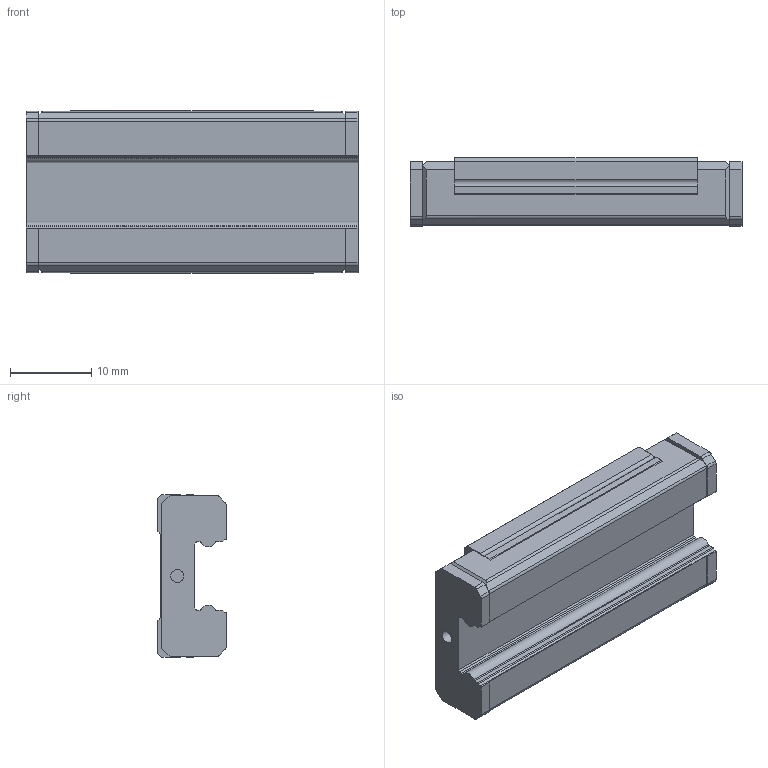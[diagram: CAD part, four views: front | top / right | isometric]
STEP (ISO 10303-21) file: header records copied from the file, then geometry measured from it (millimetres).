
FILE_DESCRIPTION(/* description */ ('STEP AP214'),/* implementation_level */ '2;1');
FILE_NAME(/* name */ 'SRS9XNUU(GK) BLOCK(1)',/* time_stamp */ '2023-06-01T09:51:36+02:00',/* author */ ('License CC BY-ND 4.0'),/* organization */ ('CADENAS'),/* preprocessor_version */ 'ST-DEVELOPER v19.3',/* originating_system */ 'PARTsolutions',/* authorisation */ ' ');
FILE_SCHEMA (('AUTOMOTIVE_DESIGN {1 0 10303 214 3 1 1}'));
Length unit declared in the file: millimetre
Products named in the file (2): SRS9XNUU(GK) BLOCK(1); SRS9XNUU1S
Assembly tree (1 placements, depth 2):
  SRS9XNUU(GK) BLOCK(1)
    SRS9XNUU1S
Bounding box: 40.8 x 8.4 x 20 mm (x, y, z)
Volume: 5134.2 mm3; surface area: 2985.1 mm2
Topology: 1 solids, 1 shells, 120 faces, 324 edges, 208 vertices
Faces by surface type: plane 78, cylinder 34, cone 8
Full cylindrical faces by diameter (mm): 1.6 x2, 2.459 x4
Entity records: 3663 total; most frequent: DIRECTION 630, CARTESIAN_POINT 628, ORIENTED_EDGE 604, EDGE_CURVE 302, LINE 218, VECTOR 218, AXIS2_PLACEMENT_3D 206, VERTEX_POINT 204
